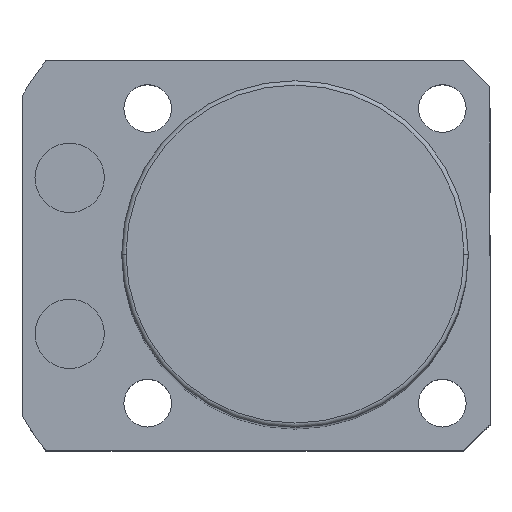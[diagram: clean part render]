
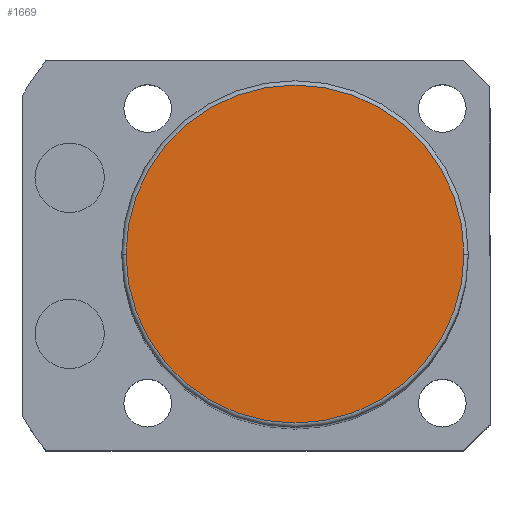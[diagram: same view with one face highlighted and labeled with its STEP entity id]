
A CAD part, top view. The second image highlights one B-rep face of the part: STEP entity #1669.
In plain terms, the highlighted planar face has unit normal (0, 0, 1).
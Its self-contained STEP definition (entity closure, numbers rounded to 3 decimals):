
#132 = ORIENTED_EDGE ( 'NONE', *, *, #1891, .T. ) ;
#338 = DIRECTION ( 'NONE',  ( 0., 0., 1. ) ) ;
#416 = DIRECTION ( 'NONE',  ( 0., 0., 1. ) ) ;
#564 = DIRECTION ( 'NONE',  ( 1., 0., 0. ) ) ;
#632 = DIRECTION ( 'NONE',  ( 1., 0., 0. ) ) ;
#705 = FACE_OUTER_BOUND ( 'NONE', #1333, .T. ) ;
#961 = EDGE_CURVE ( 'NONE', #1661, #2399, #1655, .T. ) ;
#1031 = AXIS2_PLACEMENT_3D ( 'NONE', #1244, #2513, #632 ) ;
#1227 = CARTESIAN_POINT ( 'NONE',  ( 19.5, 0., 128.5 ) ) ;
#1231 = DIRECTION ( 'NONE',  ( 1., 0., 0. ) ) ;
#1244 = CARTESIAN_POINT ( 'NONE',  ( 0., 0., 128.5 ) ) ;
#1333 = EDGE_LOOP ( 'NONE', ( #2272, #132 ) ) ;
#1555 = CARTESIAN_POINT ( 'NONE',  ( 0., 0., 128.5 ) ) ;
#1655 = CIRCLE ( 'NONE', #2329, 19.5 ) ;
#1661 = VERTEX_POINT ( 'NONE', #1227 ) ;
#1669 = ADVANCED_FACE ( 'NONE', ( #705 ), #2270, .T. ) ;
#1801 = AXIS2_PLACEMENT_3D ( 'NONE', #2483, #416, #1231 ) ;
#1877 = CARTESIAN_POINT ( 'NONE',  ( -19.5, 0., 128.5 ) ) ;
#1891 = EDGE_CURVE ( 'NONE', #2399, #1661, #2525, .T. ) ;
#2270 = PLANE ( 'NONE',  #1031 ) ;
#2272 = ORIENTED_EDGE ( 'NONE', *, *, #961, .T. ) ;
#2329 = AXIS2_PLACEMENT_3D ( 'NONE', #1555, #338, #564 ) ;
#2399 = VERTEX_POINT ( 'NONE', #1877 ) ;
#2483 = CARTESIAN_POINT ( 'NONE',  ( 0., 0., 128.5 ) ) ;
#2513 = DIRECTION ( 'NONE',  ( 0., 0., 1. ) ) ;
#2525 = CIRCLE ( 'NONE', #1801, 19.5 ) ;
